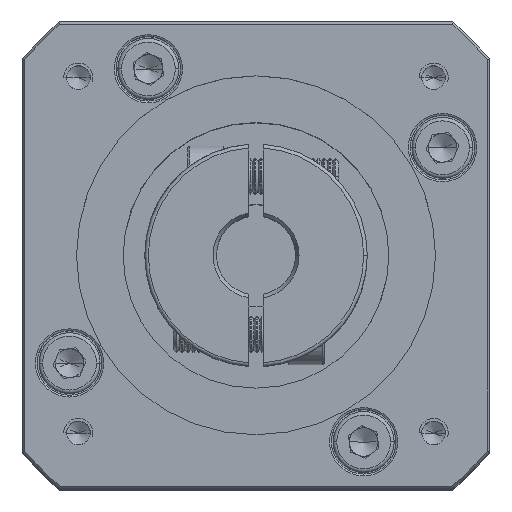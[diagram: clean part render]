
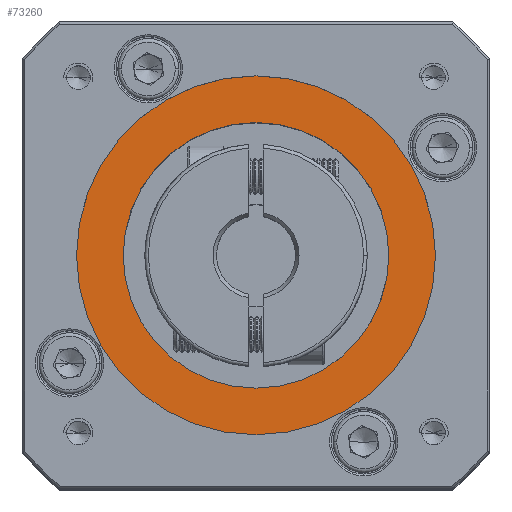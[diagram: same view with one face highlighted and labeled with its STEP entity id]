
A CAD part, top view. The second image highlights one B-rep face of the part: STEP entity #73260.
In plain terms, the highlighted planar face has unit normal (0, 0, 1).
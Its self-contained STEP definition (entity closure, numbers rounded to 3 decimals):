
#36 = EDGE_CURVE ( 'NONE', #23942, #20898, #73676, .T. ) ;
#1709 = DIRECTION ( 'NONE',  ( 0., 0., 1. ) ) ;
#3643 = EDGE_LOOP ( 'NONE', ( #14786, #15531 ) ) ;
#6284 = CARTESIAN_POINT ( 'NONE',  ( 25.338, 15.183, 148.65 ) ) ;
#9740 = CIRCLE ( 'NONE', #50323, 18.5 ) ;
#14520 = DIRECTION ( 'NONE',  ( 1., 0., 0. ) ) ;
#14786 = ORIENTED_EDGE ( 'NONE', *, *, #30828, .T. ) ;
#15078 = AXIS2_PLACEMENT_3D ( 'NONE', #6284, #63678, #14520 ) ;
#15531 = ORIENTED_EDGE ( 'NONE', *, *, #47556, .T. ) ;
#17396 = ORIENTED_EDGE ( 'NONE', *, *, #24609, .T. ) ;
#20898 = VERTEX_POINT ( 'NONE', #46829 ) ;
#23599 = CARTESIAN_POINT ( 'NONE',  ( 0.338, 15.183, 148.65 ) ) ;
#23942 = VERTEX_POINT ( 'NONE', #23599 ) ;
#24609 = EDGE_CURVE ( 'NONE', #20898, #23942, #59103, .T. ) ;
#25269 = AXIS2_PLACEMENT_3D ( 'NONE', #87145, #37898, #95420 ) ;
#26729 = DIRECTION ( 'NONE',  ( 0., 0., 1. ) ) ;
#30677 = CARTESIAN_POINT ( 'NONE',  ( 6.838, 15.183, 148.65 ) ) ;
#30828 = EDGE_CURVE ( 'NONE', #70046, #87346, #9740, .T. ) ;
#32212 = ORIENTED_EDGE ( 'NONE', *, *, #36, .T. ) ;
#34574 = PLANE ( 'NONE',  #60139 ) ;
#37898 = DIRECTION ( 'NONE',  ( 0., 0., 1. ) ) ;
#43750 = CARTESIAN_POINT ( 'NONE',  ( 43.838, 15.183, 148.65 ) ) ;
#43797 = DIRECTION ( 'NONE',  ( 0., 0., -1. ) ) ;
#46829 = CARTESIAN_POINT ( 'NONE',  ( 50.338, 15.183, 148.65 ) ) ;
#47556 = EDGE_CURVE ( 'NONE', #87346, #70046, #93296, .T. ) ;
#49429 = FACE_BOUND ( 'NONE', #3643, .T. ) ;
#50323 = AXIS2_PLACEMENT_3D ( 'NONE', #93094, #43797, #101312 ) ;
#50859 = DIRECTION ( 'NONE',  ( 1., 0., 0. ) ) ;
#59103 = CIRCLE ( 'NONE', #25269, 25. ) ;
#59127 = CARTESIAN_POINT ( 'NONE',  ( 25.338, 15.183, 148.65 ) ) ;
#60139 = AXIS2_PLACEMENT_3D ( 'NONE', #75901, #26729, #84171 ) ;
#63678 = DIRECTION ( 'NONE',  ( 0., 0., -1. ) ) ;
#70046 = VERTEX_POINT ( 'NONE', #43750 ) ;
#73260 = ADVANCED_FACE ( 'NONE', ( #93158, #49429 ), #34574, .T. ) ;
#73676 = CIRCLE ( 'NONE', #106544, 25. ) ;
#75901 = CARTESIAN_POINT ( 'NONE',  ( 25.338, 15.183, 148.65 ) ) ;
#81875 = EDGE_LOOP ( 'NONE', ( #17396, #32212 ) ) ;
#84171 = DIRECTION ( 'NONE',  ( 1., 0., 0. ) ) ;
#87145 = CARTESIAN_POINT ( 'NONE',  ( 25.338, 15.183, 148.65 ) ) ;
#87346 = VERTEX_POINT ( 'NONE', #30677 ) ;
#93094 = CARTESIAN_POINT ( 'NONE',  ( 25.338, 15.183, 148.65 ) ) ;
#93158 = FACE_OUTER_BOUND ( 'NONE', #81875, .T. ) ;
#93296 = CIRCLE ( 'NONE', #15078, 18.5 ) ;
#95420 = DIRECTION ( 'NONE',  ( 1., 0., 0. ) ) ;
#101312 = DIRECTION ( 'NONE',  ( 1., 0., 0. ) ) ;
#106544 = AXIS2_PLACEMENT_3D ( 'NONE', #59127, #1709, #50859 ) ;
